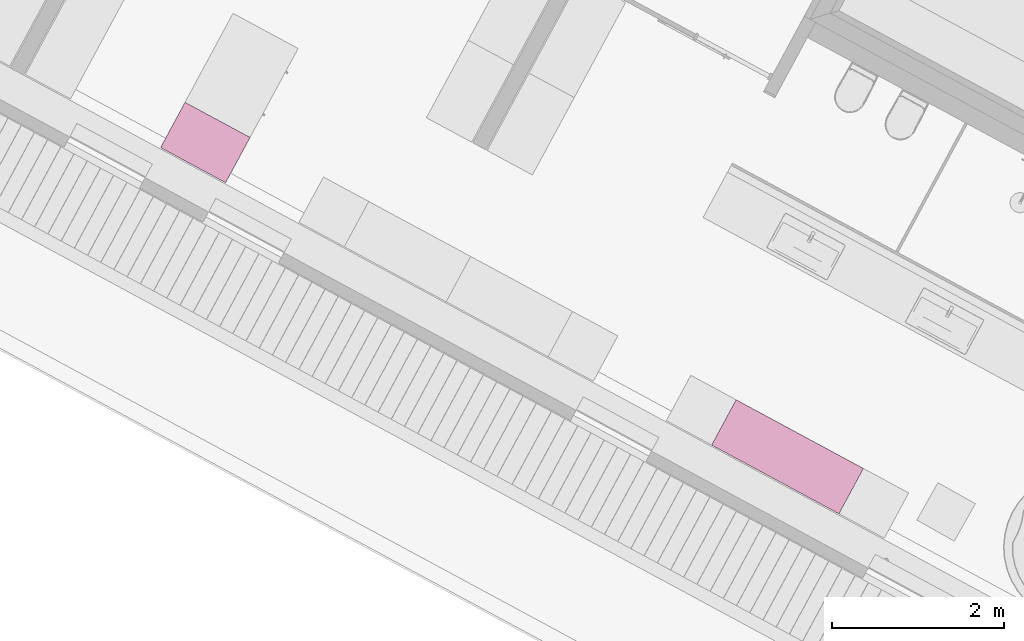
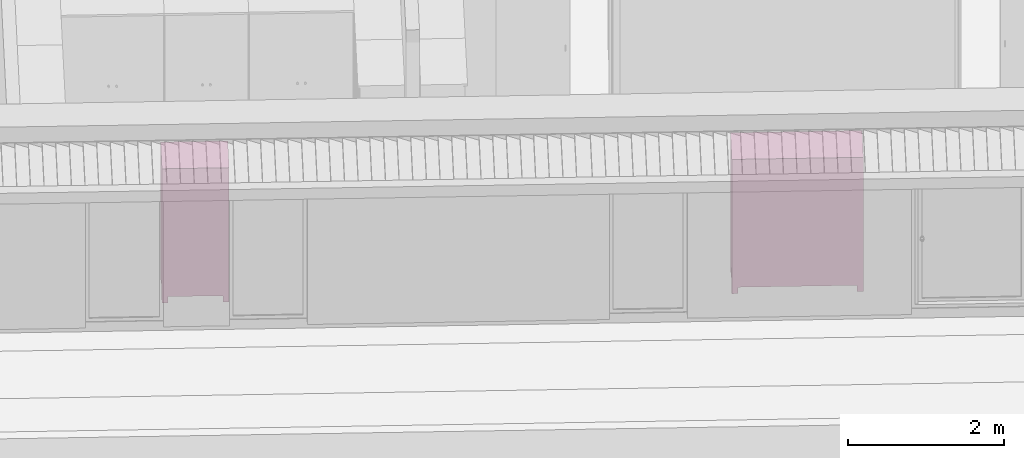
# One storey, part 26 of 41: 2 furnishings.
"""IFC2X3 building model written with IfcOpenShell, lengths in metres."""

from ifc_helpers import new_model, entity, si_unit, converted_unit, derived_unit, money_unit, direction, frame, origin_with_axes, place, context, subcontext, project, spatial, faceted_brep, type_object, element, save


model = new_model("IFC2X3")

# Units and contexts
model_context = context("Model", 3, precision=1e-05, world=origin_with_axes(), true_north=direction((0.0, 1.0)))
body_context = subcontext(model_context, "Body", "Model", "MODEL_VIEW")
ifc_project = project(units=[si_unit("LENGTHUNIT", "METRE"), si_unit("AREAUNIT", "SQUARE_METRE"), si_unit("VOLUMEUNIT", "CUBIC_METRE"), converted_unit("PLANEANGLEUNIT", "DEGREE", entity("IfcPlaneAngleMeasure", 0.0174532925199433), si_unit("PLANEANGLEUNIT", "RADIAN"), dimensions=[0, 0, 0, 0, 0, 0, 0]), money_unit("EUR"), converted_unit("TIMEUNIT", "Year", entity("IfcTimeMeasure", 31556926.0), si_unit("TIMEUNIT", "SECOND"), dimensions=[0, 0, 1, 0, 0, 0, 0]), si_unit("MASSUNIT", "GRAM", prefix="KILO"), si_unit("THERMODYNAMICTEMPERATUREUNIT", "DEGREE_CELSIUS"), si_unit("LUMINOUSINTENSITYUNIT", "LUMEN"), si_unit("ENERGYUNIT", "JOULE", prefix="MEGA"), derived_unit("THERMALCONDUCTANCEUNIT", [(si_unit("POWERUNIT", "WATT"), 1), (si_unit("LENGTHUNIT", "METRE"), -1), (si_unit("THERMODYNAMICTEMPERATUREUNIT", "KELVIN"), -1)]), derived_unit("SPECIFICHEATCAPACITYUNIT", [(si_unit("ENERGYUNIT", "JOULE"), 1), (si_unit("MASSUNIT", "GRAM", prefix="KILO"), -1), (si_unit("THERMODYNAMICTEMPERATUREUNIT", "KELVIN"), -1)]), derived_unit("MASSDENSITYUNIT", [(si_unit("MASSUNIT", "GRAM", prefix="KILO"), 1), (si_unit("VOLUMEUNIT", "CUBIC_METRE"), -1)])], contexts=[model_context])

# Site, building, storey
site_placement = place(None, frame((-3.949935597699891, 1.740105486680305, 0.0), z_axis=(0.0, 0.0, 1.0), x_axis=(0.8799804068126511, -0.475009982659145, 0.0)))
site = spatial("IfcSite", under=ifc_project, at=site_placement, Name="Gelände", CompositionType="ELEMENT")
building_placement = place(site_placement, origin_with_axes())
building = spatial("IfcBuilding", under=site, at=building_placement, Name="Gebäude", CompositionType="ELEMENT")
storey_placement = place(building_placement, frame((0.0, 0.0, 4.55), z_axis=(0.0, 0.0, 1.0), x_axis=(1.0, 0.0, 0.0)))
storey = spatial("IfcBuildingStorey", under=building, at=storey_placement, Name="Staffelgeschoss", CompositionType="ELEMENT", Elevation=4.55)

# Furnishings
furniture_type = type_object("IfcFurnitureType", Name="Kleiderschrank 22", AssemblyPlace="NOTDEFINED")
furnishing_1_placement = place(storey_placement, frame((13.41639593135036, 2.239997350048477, 0.0), z_axis=(0.0, 0.0, 1.0), x_axis=(-1.0, 0.0, 0.0)))
element("IfcFurnishingElement", 1, at=furnishing_1_placement, inside=storey, type_object=furniture_type, Name="Objekt-0066", ObjectType="FURNITURE", context=body_context, shape_type="Brep", body=[
    faceted_brep([(-0.02000000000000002, 0.6000049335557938, 0.12), (-0.02000000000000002, 0.6000049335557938, 2.05), (-0.02000000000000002, 0.5800049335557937, 2.05), (-0.02000000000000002, 0.5800049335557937, 0.12), (-0.8418297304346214, 0.6000049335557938, 0.12), (-0.8418297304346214, 0.6000049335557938, 2.05), (-0.8418297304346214, 0.5800049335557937, 2.05), (-0.8418297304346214, 0.5800049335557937, 0.12)], [[[0, 1, 2, 3]], [[4, 5, 1, 0]], [[1, 5, 6, 2]], [[3, 2, 6, 7]], [[0, 3, 7, 4]], [[7, 6, 5, 4]]]),
    faceted_brep([(-0.8618297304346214, 0.05000000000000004, 0.1), (-0.8618297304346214, 0.6000049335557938, 0.1), (-0.8418297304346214, 0.6000049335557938, 0.1), (-0.8418297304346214, 0.05000000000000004, 0.1), (-0.8618297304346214, 0.05000000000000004, 2.07), (-0.8618297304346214, 0.6000049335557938, 2.07), (-0.8418297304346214, 0.6000049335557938, 2.07), (-0.8418297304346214, 0.05000000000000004, 2.07)], [[[0, 1, 2, 3]], [[0, 4, 5, 1]], [[1, 5, 6, 2]], [[2, 6, 7, 3]], [[3, 7, 4, 0]], [[7, 6, 5, 4]]]),
    faceted_brep([(-0.02, 0.05000000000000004, 0.1), (-0.02, 0.6000049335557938, 0.1), (0.0, 0.6000049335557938, 0.1), (0.0, 0.05000000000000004, 0.1), (-0.02, 0.05000000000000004, 2.07), (-0.02, 0.6000049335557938, 2.07), (0.0, 0.6000049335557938, 2.07), (0.0, 0.05000000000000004, 2.07)], [[[0, 1, 2, 3]], [[0, 4, 5, 1]], [[1, 5, 6, 2]], [[2, 6, 7, 3]], [[3, 7, 4, 0]], [[7, 6, 5, 4]]]),
    faceted_brep([(-0.8418297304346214, 0.05000000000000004, 0.1), (-0.8418297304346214, 0.6000049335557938, 0.1), (-0.02000000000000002, 0.6000049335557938, 0.1), (-0.02000000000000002, 0.05000000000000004, 0.1), (-0.8418297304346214, 0.05000000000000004, 0.12), (-0.8418297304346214, 0.6000049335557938, 0.12), (-0.02000000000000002, 0.6000049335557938, 0.12), (-0.02000000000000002, 0.05000000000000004, 0.12)], [[[0, 1, 2, 3]], [[0, 4, 5, 1]], [[1, 5, 6, 2]], [[2, 6, 7, 3]], [[3, 7, 4, 0]], [[7, 6, 5, 4]]]),
    faceted_brep([(-0.8418297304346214, 0.05000000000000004, 2.05), (-0.8418297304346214, 0.6000049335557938, 2.05), (-0.02000000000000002, 0.6000049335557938, 2.05), (-0.02000000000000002, 0.05000000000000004, 2.05), (-0.8418297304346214, 0.05000000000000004, 2.07), (-0.8418297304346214, 0.6000049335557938, 2.07), (-0.02000000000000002, 0.6000049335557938, 2.07), (-0.02000000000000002, 0.05000000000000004, 2.07)], [[[0, 1, 2, 3]], [[0, 4, 5, 1]], [[1, 5, 6, 2]], [[2, 6, 7, 3]], [[3, 7, 4, 0]], [[7, 6, 5, 4]]]),
    faceted_brep([(-0.8618297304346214, 0.6000049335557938, 2.07), (-0.8618297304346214, 0.0, 2.07), (-0.8618297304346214, 0.0, 2.1), (-0.8618297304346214, 0.6000049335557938, 2.1), (0.0, 0.6000049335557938, 2.07), (0.0, 0.0, 2.07), (0.0, 0.0, 2.1), (0.0, 0.6000049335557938, 2.1)], [[[0, 1, 2, 3]], [[0, 4, 5, 1]], [[1, 5, 6, 2]], [[3, 2, 6, 7]], [[4, 0, 3, 7]], [[5, 4, 7, 6]]]),
    faceted_brep([(-0.07999999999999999, 0.5200049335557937, 0.0), (-0.07999999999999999, 0.5200049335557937, 0.1), (-0.07999999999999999, 0.6000049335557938, 0.1), (-0.07999999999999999, 0.6000049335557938, 0.0), (0.0, 0.5200049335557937, 0.0), (0.0, 0.5200049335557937, 0.1), (0.0, 0.6000049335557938, 0.1), (0.0, 0.6000049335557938, 0.0)], [[[0, 1, 2, 3]], [[4, 5, 1, 0]], [[1, 5, 6, 2]], [[3, 2, 6, 7]], [[0, 3, 7, 4]], [[7, 6, 5, 4]]]),
    faceted_brep([(-0.8618297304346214, 0.5200049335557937, 0.0), (-0.8618297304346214, 0.5200049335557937, 0.1), (-0.8618297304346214, 0.6000049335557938, 0.1), (-0.8618297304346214, 0.6000049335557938, 0.0), (-0.7818297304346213, 0.5200049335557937, 0.0), (-0.7818297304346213, 0.5200049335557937, 0.1), (-0.7818297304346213, 0.6000049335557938, 0.1), (-0.7818297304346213, 0.6000049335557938, 0.0)], [[[0, 1, 2, 3]], [[4, 5, 1, 0]], [[1, 5, 6, 2]], [[3, 2, 6, 7]], [[0, 3, 7, 4]], [[7, 6, 5, 4]]]),
    faceted_brep([(-0.07999999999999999, 0.05000000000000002, 0.0), (-0.07999999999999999, 0.05000000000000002, 0.1), (-0.07999999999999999, 0.13, 0.1), (-0.07999999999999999, 0.13, 0.0), (0.0, 0.05000000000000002, 0.0), (0.0, 0.05000000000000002, 0.1), (0.0, 0.13, 0.1), (0.0, 0.13, 0.0)], [[[0, 1, 2, 3]], [[4, 5, 1, 0]], [[1, 5, 6, 2]], [[3, 2, 6, 7]], [[0, 3, 7, 4]], [[7, 6, 5, 4]]]),
    faceted_brep([(-0.8618297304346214, 0.05000000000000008, 0.0), (-0.8618297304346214, 0.05000000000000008, 0.1), (-0.8618297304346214, 0.1300000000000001, 0.1), (-0.8618297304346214, 0.1300000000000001, 0.0), (-0.7818297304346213, 0.05000000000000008, 0.0), (-0.7818297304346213, 0.05000000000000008, 0.1), (-0.7818297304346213, 0.1300000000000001, 0.1), (-0.7818297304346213, 0.1300000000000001, 0.0)], [[[0, 1, 2, 3]], [[4, 5, 1, 0]], [[1, 5, 6, 2]], [[3, 2, 6, 7]], [[0, 3, 7, 4]], [[7, 6, 5, 4]]]),
    faceted_brep([(-0.4304148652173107, 0.05, 0.1104999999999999), (-0.4304148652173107, 0.03, 0.1104999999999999), (-0.4304148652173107, 0.03000000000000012, 2.0595), (-0.4304148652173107, 0.05000000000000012, 2.0595), (-0.4004148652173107, 0.05, 0.1405), (-0.4004148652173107, 0.03000000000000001, 0.1405), (-0.4004148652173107, 0.03000000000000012, 2.0295), (-0.4004148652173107, 0.05000000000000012, 2.0295)], [[[0, 1, 2, 3]], [[4, 5, 1, 0]], [[1, 5, 6, 2]], [[3, 2, 6, 7]], [[0, 3, 7, 4]], [[7, 6, 5, 4]]]),
    faceted_brep([(-0.04050000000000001, 0.05, 0.1405), (-0.04050000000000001, 0.03000000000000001, 0.1405), (-0.04050000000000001, 0.03000000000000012, 2.0295), (-0.04050000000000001, 0.05000000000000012, 2.0295), (-0.01050000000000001, 0.05, 0.1104999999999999), (-0.01050000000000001, 0.03, 0.1104999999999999), (-0.01050000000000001, 0.03000000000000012, 2.0595), (-0.01050000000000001, 0.05000000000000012, 2.0595)], [[[0, 1, 2, 3]], [[4, 5, 1, 0]], [[1, 5, 6, 2]], [[3, 2, 6, 7]], [[0, 3, 7, 4]], [[7, 6, 5, 4]]]),
    faceted_brep([(-0.01050000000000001, 0.05, 0.1104999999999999), (-0.01050000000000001, 0.03, 0.1104999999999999), (-0.4304148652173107, 0.03, 0.1104999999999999), (-0.4304148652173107, 0.05, 0.1104999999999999), (-0.04050000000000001, 0.05, 0.1405), (-0.04050000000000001, 0.03000000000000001, 0.1405), (-0.4004148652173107, 0.03000000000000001, 0.1405), (-0.4004148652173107, 0.05, 0.1405)], [[[0, 1, 2, 3]], [[4, 5, 1, 0]], [[1, 5, 6, 2]], [[3, 2, 6, 7]], [[0, 3, 7, 4]], [[7, 6, 5, 4]]]),
    faceted_brep([(-0.04050000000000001, 0.05000000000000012, 2.0295), (-0.04050000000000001, 0.03000000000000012, 2.0295), (-0.4004148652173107, 0.03000000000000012, 2.0295), (-0.4004148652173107, 0.05000000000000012, 2.0295), (-0.01050000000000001, 0.05000000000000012, 2.0595), (-0.01050000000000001, 0.03000000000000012, 2.0595), (-0.4304148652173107, 0.03000000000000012, 2.0595), (-0.4304148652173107, 0.05000000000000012, 2.0595)], [[[0, 1, 2, 3]], [[4, 5, 1, 0]], [[1, 5, 6, 2]], [[3, 2, 6, 7]], [[0, 3, 7, 4]], [[7, 6, 5, 4]]]),
    faceted_brep([(-0.4004148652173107, 0.04500000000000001, 0.1405), (-0.4004148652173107, 0.035, 0.1405), (-0.4004148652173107, 0.03500000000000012, 2.0295), (-0.4004148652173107, 0.04500000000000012, 2.0295), (-0.04050000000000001, 0.04500000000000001, 0.1405), (-0.04050000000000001, 0.035, 0.1405), (-0.04050000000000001, 0.03500000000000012, 2.0295), (-0.04050000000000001, 0.04500000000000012, 2.0295)], [[[0, 1, 2, 3]], [[4, 5, 1, 0]], [[1, 5, 6, 2]], [[3, 2, 6, 7]], [[0, 3, 7, 4]], [[7, 6, 5, 4]]]),
    faceted_brep([(-0.390307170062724, 0.035, 0.954), (-0.3919148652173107, 0.035, 0.96), (-0.390307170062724, 0.035, 0.966), (-0.3859148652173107, 0.035, 0.9703923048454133), (-0.3799148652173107, 0.035, 0.972), (-0.3739148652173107, 0.035, 0.9703923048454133), (-0.3695225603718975, 0.035, 0.966), (-0.3679148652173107, 0.035, 0.96), (-0.3695225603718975, 0.035, 0.954), (-0.3739148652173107, 0.035, 0.9496076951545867), (-0.3799148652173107, 0.035, 0.948), (-0.3859148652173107, 0.035, 0.9496076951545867), (-0.390307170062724, 0.01, 0.954), (-0.3919148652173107, 0.01, 0.96), (-0.390307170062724, 0.01, 0.966), (-0.3859148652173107, 0.01, 0.9703923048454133), (-0.3799148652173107, 0.01, 0.972), (-0.3739148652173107, 0.01, 0.9703923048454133), (-0.3695225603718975, 0.01, 0.966), (-0.3679148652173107, 0.01, 0.96), (-0.3695225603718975, 0.01, 0.954), (-0.3739148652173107, 0.01, 0.9496076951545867), (-0.3799148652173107, 0.01, 0.948), (-0.3859148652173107, 0.01, 0.9496076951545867)], [[[0, 1, 2, 3, 4, 5, 6, 7, 8, 9, 10, 11]], [[0, 12, 13, 1]], [[1, 13, 14, 2]], [[2, 14, 15, 3]], [[3, 15, 16, 4]], [[4, 16, 17, 5]], [[5, 17, 18, 6]], [[6, 18, 19, 7]], [[7, 19, 20, 8]], [[8, 20, 21, 9]], [[9, 21, 22, 10]], [[10, 22, 23, 11]], [[11, 23, 12, 0]], [[12, 23, 22, 21, 20, 19, 18, 17, 16, 15, 14, 13]]]),
    faceted_brep([(-0.8523297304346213, 0.05, 0.1104999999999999), (-0.8523297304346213, 0.03, 0.1104999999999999), (-0.8523297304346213, 0.03000000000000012, 2.0595), (-0.8523297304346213, 0.05000000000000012, 2.0595), (-0.8223297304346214, 0.05, 0.1405), (-0.8223297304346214, 0.03000000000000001, 0.1405), (-0.8223297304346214, 0.03000000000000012, 2.0295), (-0.8223297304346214, 0.05000000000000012, 2.0295)], [[[0, 1, 2, 3]], [[4, 5, 1, 0]], [[1, 5, 6, 2]], [[3, 2, 6, 7]], [[0, 3, 7, 4]], [[7, 6, 5, 4]]]),
    faceted_brep([(-0.4624148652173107, 0.05, 0.1405), (-0.4624148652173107, 0.03000000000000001, 0.1405), (-0.4624148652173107, 0.03000000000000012, 2.0295), (-0.4624148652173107, 0.05000000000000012, 2.0295), (-0.4324148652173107, 0.05, 0.1104999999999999), (-0.4324148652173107, 0.03, 0.1104999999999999), (-0.4324148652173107, 0.03000000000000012, 2.0595), (-0.4324148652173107, 0.05000000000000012, 2.0595)], [[[0, 1, 2, 3]], [[4, 5, 1, 0]], [[1, 5, 6, 2]], [[3, 2, 6, 7]], [[0, 3, 7, 4]], [[7, 6, 5, 4]]]),
    faceted_brep([(-0.4324148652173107, 0.05, 0.1104999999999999), (-0.4324148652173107, 0.03, 0.1104999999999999), (-0.8523297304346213, 0.03, 0.1104999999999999), (-0.8523297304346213, 0.05, 0.1104999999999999), (-0.4624148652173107, 0.05, 0.1405), (-0.4624148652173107, 0.03000000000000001, 0.1405), (-0.8223297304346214, 0.03000000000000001, 0.1405), (-0.8223297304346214, 0.05, 0.1405)], [[[0, 1, 2, 3]], [[4, 5, 1, 0]], [[1, 5, 6, 2]], [[3, 2, 6, 7]], [[0, 3, 7, 4]], [[7, 6, 5, 4]]]),
    faceted_brep([(-0.4624148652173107, 0.05000000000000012, 2.0295), (-0.4624148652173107, 0.03000000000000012, 2.0295), (-0.8223297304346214, 0.03000000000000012, 2.0295), (-0.8223297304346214, 0.05000000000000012, 2.0295), (-0.4324148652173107, 0.05000000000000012, 2.0595), (-0.4324148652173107, 0.03000000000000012, 2.0595), (-0.8523297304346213, 0.03000000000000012, 2.0595), (-0.8523297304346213, 0.05000000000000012, 2.0595)], [[[0, 1, 2, 3]], [[4, 5, 1, 0]], [[1, 5, 6, 2]], [[3, 2, 6, 7]], [[0, 3, 7, 4]], [[7, 6, 5, 4]]]),
    faceted_brep([(-0.8223297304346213, 0.04500000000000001, 0.1405), (-0.8223297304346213, 0.04000000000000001, 0.1405), (-0.8223297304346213, 0.04000000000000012, 2.0295), (-0.8223297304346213, 0.04500000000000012, 2.0295), (-0.4624148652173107, 0.04500000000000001, 0.1405), (-0.4624148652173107, 0.04000000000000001, 0.1405), (-0.4624148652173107, 0.04000000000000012, 2.0295), (-0.4624148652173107, 0.04500000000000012, 2.0295)], [[[0, 1, 2, 3]], [[4, 5, 1, 0]], [[1, 5, 6, 2]], [[3, 2, 6, 7]], [[0, 3, 7, 4]], [[7, 6, 5, 4]]]),
    faceted_brep([(-0.8223297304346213, 0.04000000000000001, 0.1405), (-0.8223297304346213, 0.03500000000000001, 0.1405), (-0.8223297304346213, 0.03500000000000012, 2.0295), (-0.8223297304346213, 0.04000000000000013, 2.0295), (-0.4624148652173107, 0.04000000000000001, 0.1405), (-0.4624148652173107, 0.03500000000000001, 0.1405), (-0.4624148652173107, 0.03500000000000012, 2.0295), (-0.4624148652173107, 0.04000000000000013, 2.0295)], [[[0, 1, 2, 3]], [[4, 5, 1, 0]], [[1, 5, 6, 2]], [[3, 2, 6, 7]], [[0, 3, 7, 4]], [[7, 6, 5, 4]]]),
    faceted_brep([(-0.4715225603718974, 0.035, 0.954), (-0.4759148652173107, 0.035, 0.9496076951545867), (-0.4819148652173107, 0.035, 0.948), (-0.4879148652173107, 0.035, 0.9496076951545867), (-0.492307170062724, 0.035, 0.954), (-0.4939148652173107, 0.035, 0.96), (-0.492307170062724, 0.035, 0.966), (-0.4879148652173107, 0.035, 0.9703923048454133), (-0.4819148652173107, 0.035, 0.972), (-0.4759148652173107, 0.035, 0.9703923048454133), (-0.4715225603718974, 0.035, 0.966), (-0.4699148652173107, 0.035, 0.96), (-0.4715225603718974, 0.01, 0.954), (-0.4759148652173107, 0.01, 0.9496076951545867), (-0.4819148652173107, 0.01, 0.948), (-0.4879148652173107, 0.01, 0.9496076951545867), (-0.492307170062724, 0.01, 0.954), (-0.4939148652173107, 0.01, 0.96), (-0.492307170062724, 0.01, 0.966), (-0.4879148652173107, 0.01, 0.9703923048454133), (-0.4819148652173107, 0.01, 0.972), (-0.4759148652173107, 0.01, 0.9703923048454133), (-0.4715225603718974, 0.01, 0.966), (-0.4699148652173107, 0.01, 0.96)], [[[0, 1, 2, 3, 4, 5, 6, 7, 8, 9, 10, 11]], [[1, 0, 12, 13]], [[2, 1, 13, 14]], [[3, 2, 14, 15]], [[4, 3, 15, 16]], [[5, 4, 16, 17]], [[6, 5, 17, 18]], [[7, 6, 18, 19]], [[8, 7, 19, 20]], [[9, 8, 20, 21]], [[10, 9, 21, 22]], [[11, 10, 22, 23]], [[0, 11, 23, 12]], [[12, 23, 22, 21, 20, 19, 18, 17, 16, 15, 14, 13]]]),
])
furnishing_2_placement = place(storey_placement, frame((20.71771607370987, 2.239992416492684, 0.0), z_axis=(0.0, 0.0, 1.0), x_axis=(-1.0, 0.0, 0.0)))
element("IfcFurnishingElement", 2, at=furnishing_2_placement, inside=storey, type_object=furniture_type, Name="Objekt-0066", ObjectType="FURNITURE", context=body_context, shape_type="Brep", body=[
    faceted_brep([(-0.02000000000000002, 0.6000000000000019, 0.12), (-0.02000000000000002, 0.6000000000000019, 2.05), (-0.02000000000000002, 0.5800000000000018, 2.05), (-0.02000000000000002, 0.5800000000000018, 0.12), (-1.66712455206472, 0.6000000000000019, 0.12), (-1.66712455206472, 0.6000000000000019, 2.05), (-1.66712455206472, 0.5800000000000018, 2.05), (-1.66712455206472, 0.5800000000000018, 0.12)], [[[0, 1, 2, 3]], [[4, 5, 1, 0]], [[1, 5, 6, 2]], [[3, 2, 6, 7]], [[0, 3, 7, 4]], [[7, 6, 5, 4]]]),
    faceted_brep([(-1.68712455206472, 0.05000000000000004, 0.1), (-1.68712455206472, 0.6000000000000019, 0.1), (-1.66712455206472, 0.6000000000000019, 0.1), (-1.66712455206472, 0.05000000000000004, 0.1), (-1.68712455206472, 0.05000000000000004, 2.07), (-1.68712455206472, 0.6000000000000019, 2.07), (-1.66712455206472, 0.6000000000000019, 2.07), (-1.66712455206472, 0.05000000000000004, 2.07)], [[[0, 1, 2, 3]], [[0, 4, 5, 1]], [[1, 5, 6, 2]], [[2, 6, 7, 3]], [[3, 7, 4, 0]], [[7, 6, 5, 4]]]),
    faceted_brep([(-0.02, 0.05000000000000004, 0.1), (-0.02, 0.6000000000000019, 0.1), (0.0, 0.6000000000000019, 0.1), (0.0, 0.05000000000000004, 0.1), (-0.02, 0.05000000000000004, 2.07), (-0.02, 0.6000000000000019, 2.07), (0.0, 0.6000000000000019, 2.07), (0.0, 0.05000000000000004, 2.07)], [[[0, 1, 2, 3]], [[0, 4, 5, 1]], [[1, 5, 6, 2]], [[2, 6, 7, 3]], [[3, 7, 4, 0]], [[7, 6, 5, 4]]]),
    faceted_brep([(-1.66712455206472, 0.05000000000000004, 0.1), (-1.66712455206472, 0.6000000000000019, 0.1), (-0.02000000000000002, 0.6000000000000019, 0.1), (-0.02000000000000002, 0.05000000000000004, 0.1), (-1.66712455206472, 0.05000000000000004, 0.12), (-1.66712455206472, 0.6000000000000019, 0.12), (-0.02000000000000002, 0.6000000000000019, 0.12), (-0.02000000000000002, 0.05000000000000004, 0.12)], [[[0, 1, 2, 3]], [[0, 4, 5, 1]], [[1, 5, 6, 2]], [[2, 6, 7, 3]], [[3, 7, 4, 0]], [[7, 6, 5, 4]]]),
    faceted_brep([(-1.66712455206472, 0.05000000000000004, 2.05), (-1.66712455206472, 0.6000000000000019, 2.05), (-0.02000000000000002, 0.6000000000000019, 2.05), (-0.02000000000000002, 0.05000000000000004, 2.05), (-1.66712455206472, 0.05000000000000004, 2.07), (-1.66712455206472, 0.6000000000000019, 2.07), (-0.02000000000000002, 0.6000000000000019, 2.07), (-0.02000000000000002, 0.05000000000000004, 2.07)], [[[0, 1, 2, 3]], [[0, 4, 5, 1]], [[1, 5, 6, 2]], [[2, 6, 7, 3]], [[3, 7, 4, 0]], [[7, 6, 5, 4]]]),
    faceted_brep([(-1.68712455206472, 0.6000000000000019, 2.07), (-1.68712455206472, 0.0, 2.07), (-1.68712455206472, 0.0, 2.1), (-1.68712455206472, 0.6000000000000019, 2.1), (0.0, 0.6000000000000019, 2.07), (0.0, 0.0, 2.07), (0.0, 0.0, 2.1), (0.0, 0.6000000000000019, 2.1)], [[[0, 1, 2, 3]], [[0, 4, 5, 1]], [[1, 5, 6, 2]], [[3, 2, 6, 7]], [[4, 0, 3, 7]], [[5, 4, 7, 6]]]),
    faceted_brep([(-0.08000000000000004, 0.5200000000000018, 0.0), (-0.08000000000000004, 0.5200000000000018, 0.1), (-0.08000000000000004, 0.6000000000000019, 0.1), (-0.08000000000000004, 0.6000000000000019, 0.0), (0.0, 0.5200000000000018, 0.0), (0.0, 0.5200000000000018, 0.1), (0.0, 0.6000000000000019, 0.1), (0.0, 0.6000000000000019, 0.0)], [[[0, 1, 2, 3]], [[4, 5, 1, 0]], [[1, 5, 6, 2]], [[3, 2, 6, 7]], [[0, 3, 7, 4]], [[7, 6, 5, 4]]]),
    faceted_brep([(-1.68712455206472, 0.5200000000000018, 0.0), (-1.68712455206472, 0.5200000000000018, 0.1), (-1.68712455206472, 0.6000000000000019, 0.1), (-1.68712455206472, 0.6000000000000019, 0.0), (-1.60712455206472, 0.5200000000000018, 0.0), (-1.60712455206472, 0.5200000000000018, 0.1), (-1.60712455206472, 0.6000000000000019, 0.1), (-1.60712455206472, 0.6000000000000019, 0.0)], [[[0, 1, 2, 3]], [[4, 5, 1, 0]], [[1, 5, 6, 2]], [[3, 2, 6, 7]], [[0, 3, 7, 4]], [[7, 6, 5, 4]]]),
    faceted_brep([(-0.08000000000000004, 0.05000000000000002, 0.0), (-0.08000000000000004, 0.05000000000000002, 0.1), (-0.08000000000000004, 0.13, 0.1), (-0.08000000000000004, 0.13, 0.0), (0.0, 0.05000000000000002, 0.0), (0.0, 0.05000000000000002, 0.1), (0.0, 0.13, 0.1), (0.0, 0.13, 0.0)], [[[0, 1, 2, 3]], [[4, 5, 1, 0]], [[1, 5, 6, 2]], [[3, 2, 6, 7]], [[0, 3, 7, 4]], [[7, 6, 5, 4]]]),
    faceted_brep([(-1.68712455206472, 0.05000000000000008, 0.0), (-1.68712455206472, 0.05000000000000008, 0.1), (-1.68712455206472, 0.1300000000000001, 0.1), (-1.68712455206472, 0.1300000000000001, 0.0), (-1.60712455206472, 0.05000000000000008, 0.0), (-1.60712455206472, 0.05000000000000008, 0.1), (-1.60712455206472, 0.1300000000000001, 0.1), (-1.60712455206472, 0.1300000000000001, 0.0)], [[[0, 1, 2, 3]], [[4, 5, 1, 0]], [[1, 5, 6, 2]], [[3, 2, 6, 7]], [[0, 3, 7, 4]], [[7, 6, 5, 4]]]),
    faceted_brep([(-0.8430622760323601, 0.05, 0.1104999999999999), (-0.8430622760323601, 0.03, 0.1104999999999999), (-0.8430622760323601, 0.03000000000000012, 2.0595), (-0.8430622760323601, 0.05000000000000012, 2.0595), (-0.81306227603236, 0.05, 0.1405), (-0.81306227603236, 0.03000000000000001, 0.1405), (-0.81306227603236, 0.03000000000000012, 2.0295), (-0.81306227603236, 0.05000000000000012, 2.0295)], [[[0, 1, 2, 3]], [[4, 5, 1, 0]], [[1, 5, 6, 2]], [[3, 2, 6, 7]], [[0, 3, 7, 4]], [[7, 6, 5, 4]]]),
    faceted_brep([(-0.04049999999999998, 0.05, 0.1405), (-0.04049999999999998, 0.03000000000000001, 0.1405), (-0.04049999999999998, 0.03000000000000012, 2.0295), (-0.04049999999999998, 0.05000000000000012, 2.0295), (-0.01050000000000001, 0.05, 0.1104999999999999), (-0.01050000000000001, 0.03, 0.1104999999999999), (-0.01050000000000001, 0.03000000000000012, 2.0595), (-0.01050000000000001, 0.05000000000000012, 2.0595)], [[[0, 1, 2, 3]], [[4, 5, 1, 0]], [[1, 5, 6, 2]], [[3, 2, 6, 7]], [[0, 3, 7, 4]], [[7, 6, 5, 4]]]),
    faceted_brep([(-0.01050000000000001, 0.05, 0.1104999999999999), (-0.01050000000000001, 0.03, 0.1104999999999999), (-0.8430622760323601, 0.03, 0.1104999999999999), (-0.8430622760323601, 0.05, 0.1104999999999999), (-0.04049999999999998, 0.05, 0.1405), (-0.04049999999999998, 0.03000000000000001, 0.1405), (-0.81306227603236, 0.03000000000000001, 0.1405), (-0.81306227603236, 0.05, 0.1405)], [[[0, 1, 2, 3]], [[4, 5, 1, 0]], [[1, 5, 6, 2]], [[3, 2, 6, 7]], [[0, 3, 7, 4]], [[7, 6, 5, 4]]]),
    faceted_brep([(-0.04049999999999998, 0.05000000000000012, 2.0295), (-0.04049999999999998, 0.03000000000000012, 2.0295), (-0.81306227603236, 0.03000000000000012, 2.0295), (-0.81306227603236, 0.05000000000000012, 2.0295), (-0.01050000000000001, 0.05000000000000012, 2.0595), (-0.01050000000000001, 0.03000000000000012, 2.0595), (-0.8430622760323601, 0.03000000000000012, 2.0595), (-0.8430622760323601, 0.05000000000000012, 2.0595)], [[[0, 1, 2, 3]], [[4, 5, 1, 0]], [[1, 5, 6, 2]], [[3, 2, 6, 7]], [[0, 3, 7, 4]], [[7, 6, 5, 4]]]),
    faceted_brep([(-0.81306227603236, 0.04500000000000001, 0.1405), (-0.81306227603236, 0.035, 0.1405), (-0.81306227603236, 0.03500000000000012, 2.0295), (-0.81306227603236, 0.04500000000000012, 2.0295), (-0.04049999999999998, 0.04500000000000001, 0.1405), (-0.04049999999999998, 0.035, 0.1405), (-0.04049999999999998, 0.03500000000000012, 2.0295), (-0.04049999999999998, 0.04500000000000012, 2.0295)], [[[0, 1, 2, 3]], [[4, 5, 1, 0]], [[1, 5, 6, 2]], [[3, 2, 6, 7]], [[0, 3, 7, 4]], [[7, 6, 5, 4]]]),
    faceted_brep([(-0.8029545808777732, 0.035, 0.954), (-0.80456227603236, 0.035, 0.96), (-0.8029545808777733, 0.035, 0.966), (-0.79856227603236, 0.035, 0.9703923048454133), (-0.79256227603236, 0.035, 0.972), (-0.78656227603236, 0.035, 0.9703923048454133), (-0.7821699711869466, 0.035, 0.966), (-0.78056227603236, 0.035, 0.96), (-0.7821699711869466, 0.035, 0.954), (-0.78656227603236, 0.035, 0.9496076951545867), (-0.79256227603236, 0.035, 0.948), (-0.79856227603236, 0.035, 0.9496076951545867), (-0.8029545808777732, 0.01, 0.954), (-0.80456227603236, 0.01, 0.96), (-0.8029545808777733, 0.01, 0.966), (-0.79856227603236, 0.01, 0.9703923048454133), (-0.79256227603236, 0.01, 0.972), (-0.78656227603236, 0.01, 0.9703923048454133), (-0.7821699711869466, 0.01, 0.966), (-0.78056227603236, 0.01, 0.96), (-0.7821699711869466, 0.01, 0.954), (-0.78656227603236, 0.01, 0.9496076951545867), (-0.79256227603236, 0.01, 0.948), (-0.79856227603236, 0.01, 0.9496076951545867)], [[[0, 1, 2, 3, 4, 5, 6, 7, 8, 9, 10, 11]], [[0, 12, 13, 1]], [[1, 13, 14, 2]], [[2, 14, 15, 3]], [[3, 15, 16, 4]], [[4, 16, 17, 5]], [[5, 17, 18, 6]], [[6, 18, 19, 7]], [[7, 19, 20, 8]], [[8, 20, 21, 9]], [[9, 21, 22, 10]], [[10, 22, 23, 11]], [[11, 23, 12, 0]], [[12, 23, 22, 21, 20, 19, 18, 17, 16, 15, 14, 13]]]),
    faceted_brep([(-1.67762455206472, 0.05, 0.1104999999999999), (-1.67762455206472, 0.03, 0.1104999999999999), (-1.67762455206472, 0.03000000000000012, 2.0595), (-1.67762455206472, 0.05000000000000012, 2.0595), (-1.64762455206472, 0.05, 0.1405), (-1.64762455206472, 0.03000000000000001, 0.1405), (-1.64762455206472, 0.03000000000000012, 2.0295), (-1.64762455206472, 0.05000000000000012, 2.0295)], [[[0, 1, 2, 3]], [[4, 5, 1, 0]], [[1, 5, 6, 2]], [[3, 2, 6, 7]], [[0, 3, 7, 4]], [[7, 6, 5, 4]]]),
    faceted_brep([(-0.87506227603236, 0.05, 0.1405), (-0.87506227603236, 0.03000000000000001, 0.1405), (-0.87506227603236, 0.03000000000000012, 2.0295), (-0.87506227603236, 0.05000000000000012, 2.0295), (-0.8450622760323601, 0.05, 0.1104999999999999), (-0.8450622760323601, 0.03, 0.1104999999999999), (-0.8450622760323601, 0.03000000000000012, 2.0595), (-0.8450622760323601, 0.05000000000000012, 2.0595)], [[[0, 1, 2, 3]], [[4, 5, 1, 0]], [[1, 5, 6, 2]], [[3, 2, 6, 7]], [[0, 3, 7, 4]], [[7, 6, 5, 4]]]),
    faceted_brep([(-0.8450622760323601, 0.05, 0.1104999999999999), (-0.8450622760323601, 0.03, 0.1104999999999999), (-1.67762455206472, 0.03, 0.1104999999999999), (-1.67762455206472, 0.05, 0.1104999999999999), (-0.87506227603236, 0.05, 0.1405), (-0.87506227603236, 0.03000000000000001, 0.1405), (-1.64762455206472, 0.03000000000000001, 0.1405), (-1.64762455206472, 0.05, 0.1405)], [[[0, 1, 2, 3]], [[4, 5, 1, 0]], [[1, 5, 6, 2]], [[3, 2, 6, 7]], [[0, 3, 7, 4]], [[7, 6, 5, 4]]]),
    faceted_brep([(-0.87506227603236, 0.05000000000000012, 2.0295), (-0.87506227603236, 0.03000000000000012, 2.0295), (-1.64762455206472, 0.03000000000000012, 2.0295), (-1.64762455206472, 0.05000000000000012, 2.0295), (-0.8450622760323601, 0.05000000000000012, 2.0595), (-0.8450622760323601, 0.03000000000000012, 2.0595), (-1.67762455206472, 0.03000000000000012, 2.0595), (-1.67762455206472, 0.05000000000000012, 2.0595)], [[[0, 1, 2, 3]], [[4, 5, 1, 0]], [[1, 5, 6, 2]], [[3, 2, 6, 7]], [[0, 3, 7, 4]], [[7, 6, 5, 4]]]),
    faceted_brep([(-1.64762455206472, 0.04500000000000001, 0.1405), (-1.64762455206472, 0.04000000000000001, 0.1405), (-1.64762455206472, 0.04000000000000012, 2.0295), (-1.64762455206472, 0.04500000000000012, 2.0295), (-0.87506227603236, 0.04500000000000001, 0.1405), (-0.87506227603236, 0.04000000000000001, 0.1405), (-0.87506227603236, 0.04000000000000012, 2.0295), (-0.87506227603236, 0.04500000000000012, 2.0295)], [[[0, 1, 2, 3]], [[4, 5, 1, 0]], [[1, 5, 6, 2]], [[3, 2, 6, 7]], [[0, 3, 7, 4]], [[7, 6, 5, 4]]]),
    faceted_brep([(-1.64762455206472, 0.04000000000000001, 0.1405), (-1.64762455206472, 0.03500000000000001, 0.1405), (-1.64762455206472, 0.03500000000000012, 2.0295), (-1.64762455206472, 0.04000000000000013, 2.0295), (-0.87506227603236, 0.04000000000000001, 0.1405), (-0.87506227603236, 0.03500000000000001, 0.1405), (-0.87506227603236, 0.03500000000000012, 2.0295), (-0.87506227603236, 0.04000000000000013, 2.0295)], [[[0, 1, 2, 3]], [[4, 5, 1, 0]], [[1, 5, 6, 2]], [[3, 2, 6, 7]], [[0, 3, 7, 4]], [[7, 6, 5, 4]]]),
    faceted_brep([(-0.8841699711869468, 0.035, 0.954), (-0.88856227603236, 0.035, 0.9496076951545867), (-0.89456227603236, 0.035, 0.948), (-0.90056227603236, 0.035, 0.9496076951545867), (-0.9049545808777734, 0.035, 0.954), (-0.9065622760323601, 0.035, 0.96), (-0.9049545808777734, 0.035, 0.966), (-0.90056227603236, 0.035, 0.9703923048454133), (-0.89456227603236, 0.035, 0.972), (-0.88856227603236, 0.035, 0.9703923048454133), (-0.8841699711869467, 0.035, 0.966), (-0.88256227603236, 0.035, 0.96), (-0.8841699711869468, 0.01, 0.954), (-0.88856227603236, 0.01, 0.9496076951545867), (-0.89456227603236, 0.01, 0.948), (-0.90056227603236, 0.01, 0.9496076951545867), (-0.9049545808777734, 0.01, 0.954), (-0.9065622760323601, 0.01, 0.96), (-0.9049545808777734, 0.01, 0.966), (-0.90056227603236, 0.01, 0.9703923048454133), (-0.89456227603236, 0.01, 0.972), (-0.88856227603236, 0.01, 0.9703923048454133), (-0.8841699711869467, 0.01, 0.966), (-0.88256227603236, 0.01, 0.96)], [[[0, 1, 2, 3, 4, 5, 6, 7, 8, 9, 10, 11]], [[1, 0, 12, 13]], [[2, 1, 13, 14]], [[3, 2, 14, 15]], [[4, 3, 15, 16]], [[5, 4, 16, 17]], [[6, 5, 17, 18]], [[7, 6, 18, 19]], [[8, 7, 19, 20]], [[9, 8, 20, 21]], [[10, 9, 21, 22]], [[11, 10, 22, 23]], [[0, 11, 23, 12]], [[12, 23, 22, 21, 20, 19, 18, 17, 16, 15, 14, 13]]]),
])

save(model, "model.ifc")
